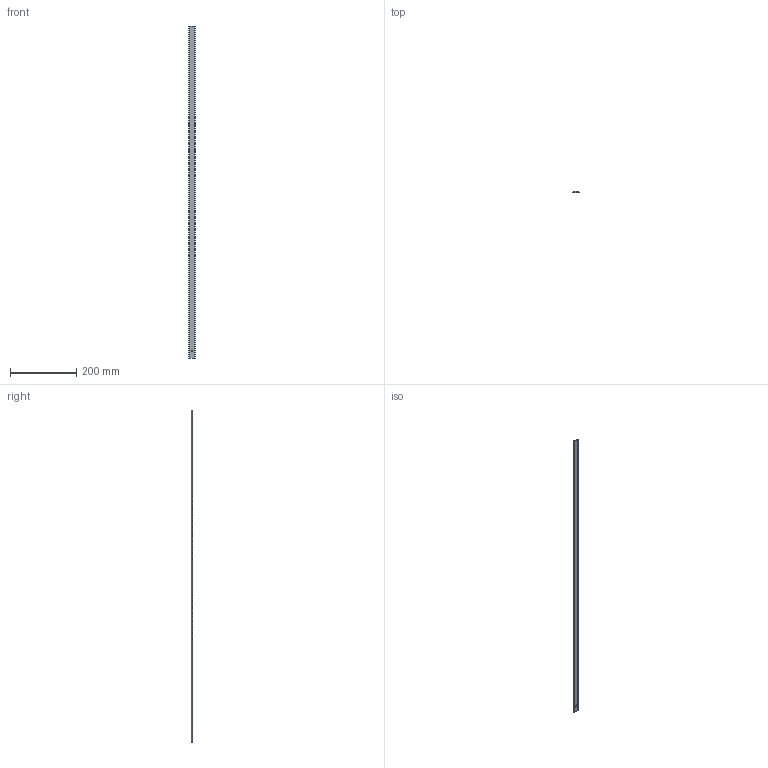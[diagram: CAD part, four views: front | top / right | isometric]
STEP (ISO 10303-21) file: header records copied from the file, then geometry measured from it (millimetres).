
FILE_DESCRIPTION (( 'STEP AP214' ), '1' );
FILE_NAME ('Profile-TRS100A00.STEP', '2015-11-27T10:41:07', ( '' ), ( '' ), 'SwSTEP 2.0', 'SolidWorks 2013', '' );
FILE_SCHEMA (( 'AUTOMOTIVE_DESIGN' ));
Length unit declared in the file: millimetre
Products named in the file (1): Profile-TRS100A00
Bounding box: 20 x 4 x 1000 mm (x, y, z)
Volume: 57936.1 mm3; surface area: 47397.9 mm2
Topology: 1 solids, 1 shells, 43 faces, 120 edges, 80 vertices
Faces by surface type: plane 25, cylinder 18
Entity records: 1428 total; most frequent: DIRECTION 244, CARTESIAN_POINT 244, ORIENTED_EDGE 240, EDGE_CURVE 120, VECTOR 84, LINE 84, VERTEX_POINT 80, AXIS2_PLACEMENT_3D 80
